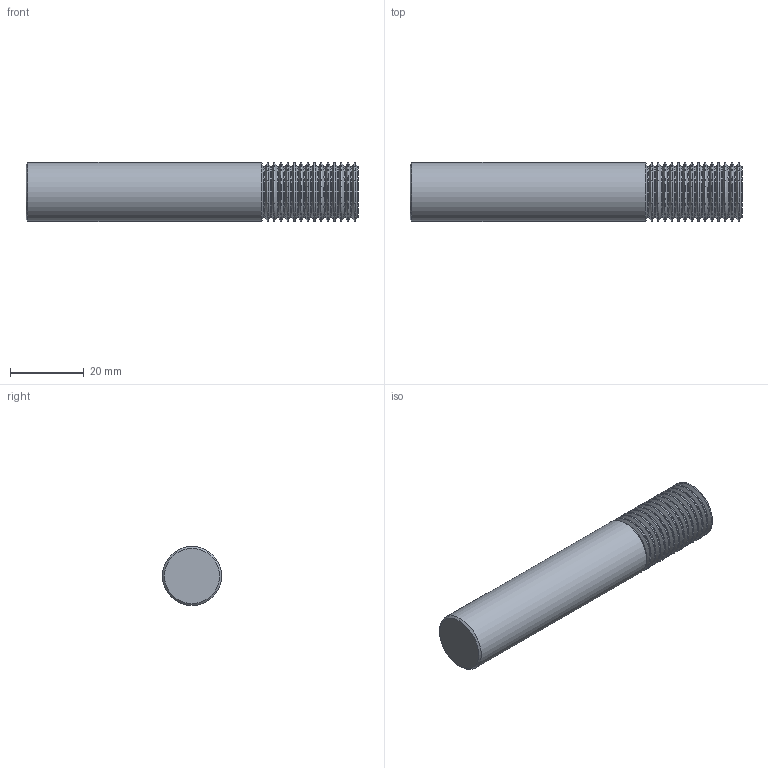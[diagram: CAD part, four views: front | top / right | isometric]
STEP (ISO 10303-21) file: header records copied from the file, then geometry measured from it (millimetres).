
FILE_DESCRIPTION(/* description */ (''),/* implementation_level */ '2;1');
FILE_NAME(/* name */ '00035553-TDM',/* time_stamp */ '2024-02-20T07:19:19+01:00',/* author */ (''),/* organization */ (''),/* preprocessor_version */ 'ST-DEVELOPER v16.5',/* originating_system */ 'HiCAD 2017 2201.0 Build 268',/* authorisation */ '');
FILE_SCHEMA (('AUTOMOTIVE_DESIGN { 1 0 10303 214 1 1 1 1 }'));
Length unit declared in the file: millimetre
Products named in the file (3): Root; ROTATIONSTEIL_0
Assembly tree (2 placements, depth 3):
  Root
    ROTATIONSTEIL_0
      ROTATIONSTEIL_0
Bounding box: 90 x 16 x 16 mm (x, y, z)
Volume: 17280.1 mm3; surface area: 5927.1 mm2
Topology: 2 solids, 2 shells, 94 faces, 184 edges, 94 vertices
Faces by surface type: torus 43, cone 30, cylinder 17, plane 4
Full cylindrical faces by diameter (mm): 13.596 x16, 16 x1
Entity records: 2844 total; most frequent: DIRECTION 380, CARTESIAN_POINT 282, AXIS2_PLACEMENT_3D 190, PRESENTATION_STYLE_ASSIGNMENT 186, COLOUR_RGB 186, DRAUGHTING_PRE_DEFINED_CURVE_FONT 184, CURVE_STYLE 184, OVER_RIDING_STYLED_ITEM 184
